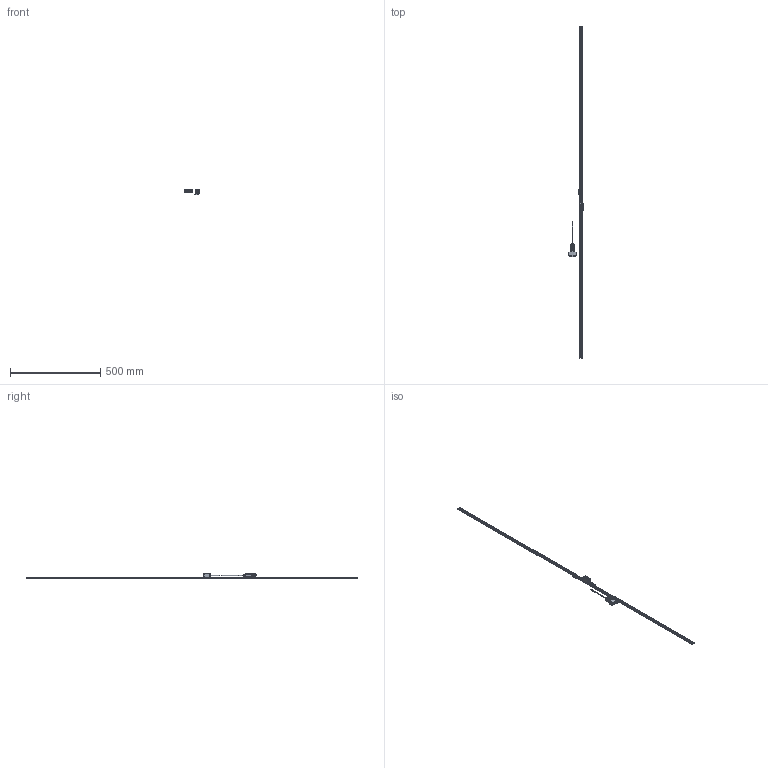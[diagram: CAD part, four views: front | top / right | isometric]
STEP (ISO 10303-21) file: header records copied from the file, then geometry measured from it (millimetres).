
FILE_DESCRIPTION(('Creo Elements/Direct Modeling STEP Export'),'2;1');
FILE_NAME('ST1300-1800F_G.stp','2022-08-16T11:09:09',(''),(''),'Creo Elements/Direct Modeling STEP processor for AP214 (Solid Model)','Creo Elements/Direct Modeling 18.1I 13-Aug-2016 (C) Parametric Technology GmbH','');
FILE_SCHEMA(('AUTOMOTIVE_DESIGN { 1 0 10303 214 1 1 1 1 }'));
Length unit declared in the file: millimetre
Products named in the file (4): Scale_1800; Detector_Head; Connector; ST1300-1800F_G
Assembly tree (3 placements, depth 2):
  ST1300-1800F_G
    Connector
    Detector_Head
    Scale_1800
Bounding box: 83 x 1840 x 30.1 mm (x, y, z)
Volume: 171615 mm3; surface area: 102346.6 mm2
Topology: 2 solids, 6 shells, 3665 faces, 10044 edges, 6537 vertices
Faces by surface type: plane 1700, cylinder 1571, extrusion 254, cone 87, torus 26, bspline 23, revolution 4
Entity records: 121792 total; most frequent: CARTESIAN_POINT 28484, ORIENTED_EDGE 20072, DIRECTION 18577, EDGE_CURVE 10032, VERTEX_POINT 6537, AXIS2_PLACEMENT_3D 6208, VECTOR 6155, LINE 5941
